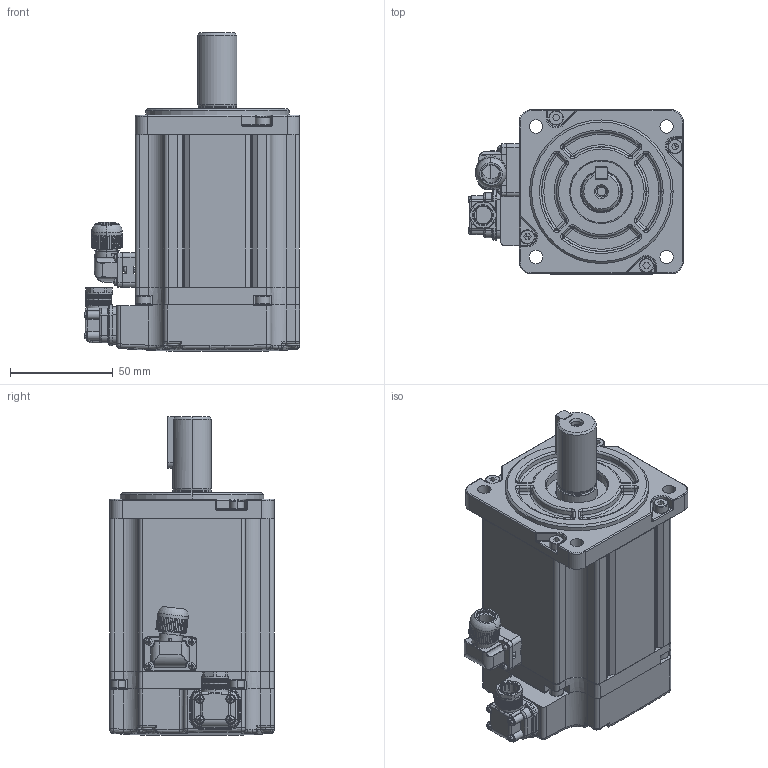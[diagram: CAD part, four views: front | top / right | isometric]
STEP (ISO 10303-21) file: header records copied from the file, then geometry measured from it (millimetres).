
FILE_DESCRIPTION (( 'STEP AP214' ), '1' );
FILE_NAME ('4611170000728.STEP', '2019-01-18T01:48:36', ( '11' ), ( '' ), 'SwSTEP 2.0', 'SolidWorks 2015', '' );
FILE_SCHEMA (( 'AUTOMOTIVE_DESIGN' ));
Length unit declared in the file: millimetre
Products named in the file (1): 4611170000728
Bounding box: 104.83 x 80.15 x 155 mm (x, y, z)
Surface area: 67390 mm2 (no closed solid volume)
Topology: 0 solids, 48 shells, 1339 faces, 4846 edges, 3367 vertices
Faces by surface type: plane 521, cylinder 324, cone 205, bspline 165, torus 83, sphere 41
Entity records: 85195 total; most frequent: CARTESIAN_POINT 33884, ORIENTED_EDGE 7651, DIRECTION 6457, EDGE_CURVE 4824, VERTEX_POINT 3367, AXIS2_PLACEMENT_3D 2393, B_SPLINE_CURVE_WITH_KNOTS 1838, VECTOR 1671
